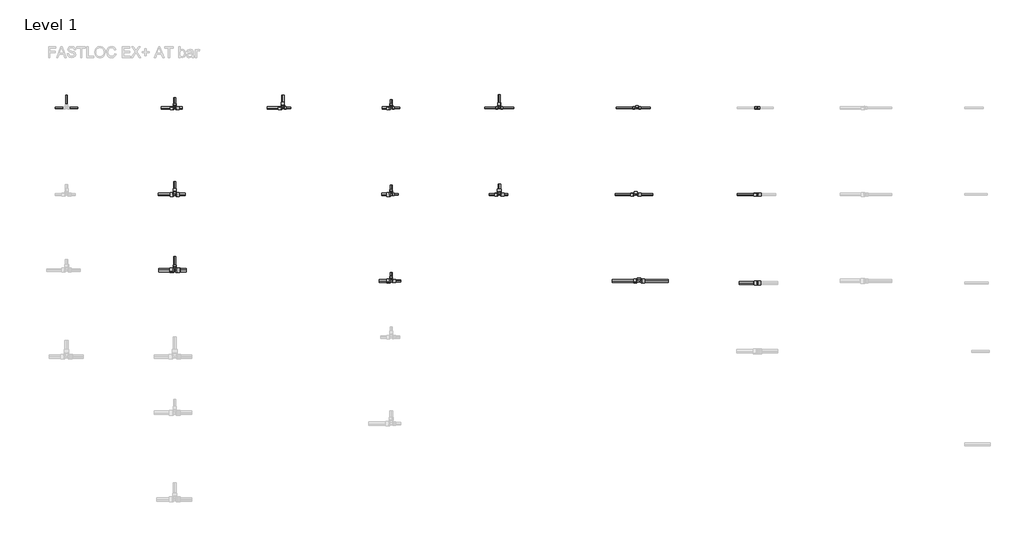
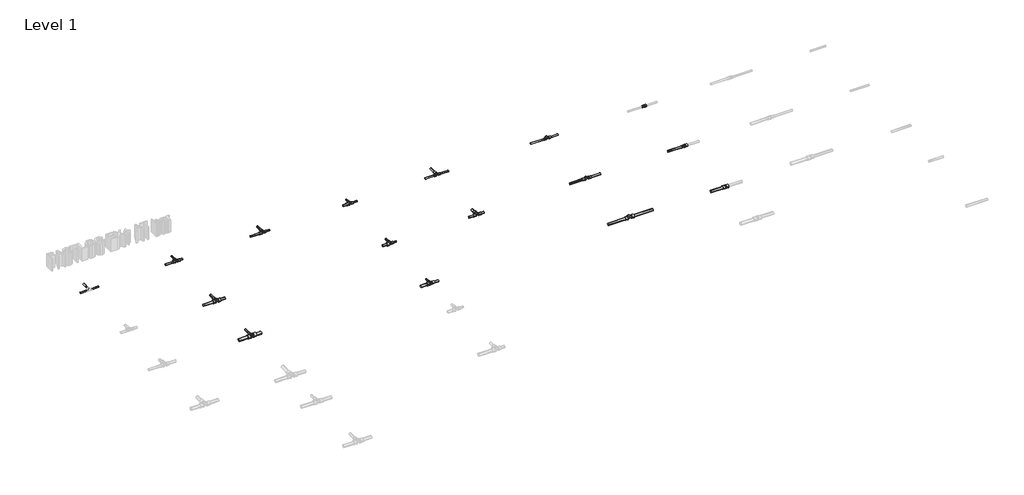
# One storey, part 2 of 16: 38 pipe segments, 15 pipe fittings.
"""IFC4 building model written with IfcOpenShell, lengths in millimetres."""

from ifc_helpers import new_model, si_unit, point, frame, frame_2d, origin, place, context, project, spatial, circle_curve, trimmed, segment, composite_curve, outline, extrude, transform, mapped, element, save
from components import pipe_fitting_027be69e, pipe_fitting_e3b44c6b, pipe_fitting_688652c5, pipe_fitting_747b917b, pipe_fitting_d1a48cca, pipe_fitting_e42a4af1, pipe_fitting_e7337aea, pipe_fitting_b316c006, pipe_fitting_93b3fcde, pipe_fitting_ef50923d, pipe_fitting_c646100e, pipe_fitting_1d22680d, pipe_fitting_5e3c5755, pipe_fitting_006a9863, pipe_fitting_3eb6683a

model = new_model("IFC4")

# Units and contexts
model_context = context("Model", 3, world=origin())
ifc_project = project(units=[si_unit("LENGTHUNIT", "METRE", prefix="MILLI")], contexts=[model_context])

# Site, building, storey
site = spatial("IfcSite", under=ifc_project)
building = spatial("IfcBuilding", under=site)
storey = spatial("IfcBuildingStorey", under=building, Name="Level 1", Elevation=0.0)

# Pipe fittings
placement = place(None, origin())
pipe_fitting_shape = pipe_fitting_027be69e(model_context)
element("IfcPipeFitting", 1, ObjectType="FASTLOC_Coupling equal EX+ : FSL C EQ EX+ AT", at=placement, inside=storey, context=model_context, shape_type="MappedRepresentation", body=[
    mapped(pipe_fitting_shape, transform((7947.6401575, -6287.6479967, 0.0), x_axis=(1.0, 0.0, 0.0), y_axis=(0.0, 1.0, 0.0), z_axis=(0.0, 0.0, 1.0))),
])
pipe_fitting_2_shape = pipe_fitting_e3b44c6b(model_context)
element("IfcPipeFitting", 2, ObjectType="FASTLOC_T-piece internal thread EX+ : FSL T thread EX+ AT", at=placement, inside=storey, context=model_context, shape_type="MappedRepresentation", body=[
    mapped(pipe_fitting_2_shape, transform((6823.972973, -7087.6479967, 0.0), x_axis=(1.0, 0.0, 0.0), y_axis=(0.0, 1.0, 0.0), z_axis=(0.0, 0.0, 1.0))),
])
pipe_fitting_3_shape = pipe_fitting_688652c5(model_context)
element("IfcPipeFitting", 3, ObjectType="FASTLOC_T-piece internal thread EX+ : FSL T thread EX+ AT", at=placement, inside=storey, context=model_context, shape_type="MappedRepresentation", body=[
    mapped(pipe_fitting_3_shape, transform((6854.9423493, -7887.6479967, 0.0), x_axis=(1.0, 0.0, 0.0), y_axis=(0.0, 1.0, 0.0), z_axis=(0.0, 0.0, 1.0))),
])
pipe_fitting_4_shape = pipe_fitting_747b917b(model_context)
element("IfcPipeFitting", 4, ObjectType="FASTLOC_T-piece_EX+ : FSL T-Piece EX+ AT", at=placement, inside=storey, context=model_context, shape_type="MappedRepresentation", body=[
    mapped(pipe_fitting_4_shape, transform((2562.9146925, -6287.6479967, 0.0), x_axis=(1.0, 0.0, 0.0), y_axis=(0.0, 1.0, 0.0), z_axis=(0.0, 0.0, 1.0))),
])
pipe_fitting_5_shape = pipe_fitting_d1a48cca(model_context)
element("IfcPipeFitting", 5, ObjectType="FASTLOC_T-piece_EX+ : FSL T-Piece EX+ AT", at=placement, inside=storey, context=model_context, shape_type="MappedRepresentation", body=[
    mapped(pipe_fitting_5_shape, transform((2562.9146925, -7087.6479967, 0.0), x_axis=(1.0, 0.0, 0.0), y_axis=(0.0, 1.0, 0.0), z_axis=(0.0, 0.0, 1.0))),
])
pipe_fitting_6_shape = pipe_fitting_e42a4af1(model_context)
element("IfcPipeFitting", 6, ObjectType="FASTLOC_T-piece_EX+ : FSL T-Piece EX+ AT", at=placement, inside=storey, context=model_context, shape_type="MappedRepresentation", body=[
    mapped(pipe_fitting_6_shape, transform((2562.9146925, -7787.6479967, 0.0), x_axis=(1.0, 0.0, 0.0), y_axis=(0.0, 1.0, 0.0), z_axis=(0.0, 0.0, 1.0))),
])
pipe_fitting_7_shape = pipe_fitting_e7337aea(model_context)
element("IfcPipeFitting", 7, ObjectType="FASTLOC_T-piece_EX+ : FSL T-Piece EX+ AT", at=placement, inside=storey, context=model_context, shape_type="MappedRepresentation", body=[
    mapped(pipe_fitting_7_shape, transform((3562.9146925, -6287.6479967, 0.0), x_axis=(1.0, 0.0, 0.0), y_axis=(0.0, 1.0, 0.0), z_axis=(0.0, 0.0, 1.0))),
])
pipe_fitting_8_shape = pipe_fitting_b316c006(model_context)
element("IfcPipeFitting", 8, ObjectType="FASTLOC_T-piece_EX+ : FSL T-Piece EX+ AT", at=placement, inside=storey, context=model_context, shape_type="MappedRepresentation", body=[
    mapped(pipe_fitting_8_shape, transform((4562.9146925, -6287.6479967, 0.0), x_axis=(1.0, 0.0, 0.0), y_axis=(0.0, 1.0, 0.0), z_axis=(0.0, 0.0, 1.0))),
])
pipe_fitting_9_shape = pipe_fitting_93b3fcde(model_context)
element("IfcPipeFitting", 9, ObjectType="FASTLOC_T-piece_EX+ : FSL T-Piece EX+ AT", at=placement, inside=storey, context=model_context, shape_type="MappedRepresentation", body=[
    mapped(pipe_fitting_9_shape, transform((4562.9146925, -7087.6479967, 0.0), x_axis=(1.0, 0.0, 0.0), y_axis=(0.0, 1.0, 0.0), z_axis=(0.0, 0.0, 1.0))),
])
pipe_fitting_10_shape = pipe_fitting_ef50923d(model_context)
element("IfcPipeFitting", 10, ObjectType="FASTLOC_T-piece_EX+ : FSL T-Piece EX+ AT", at=placement, inside=storey, context=model_context, shape_type="MappedRepresentation", body=[
    mapped(pipe_fitting_10_shape, transform((4562.9146925, -7887.6479967, 0.0), x_axis=(1.0, 0.0, 0.0), y_axis=(0.0, 1.0, 0.0), z_axis=(0.0, 0.0, 1.0))),
])
pipe_fitting_11_shape = pipe_fitting_c646100e(model_context)
element("IfcPipeFitting", 11, ObjectType="FASTLOC_T-piece_EX+ : FSL T-Piece EX+ AT", at=placement, inside=storey, context=model_context, shape_type="MappedRepresentation", body=[
    mapped(pipe_fitting_11_shape, transform((5562.9146925, -7087.6479967, 0.0), x_axis=(1.0, 0.0, 0.0), y_axis=(0.0, 1.0, 0.0), z_axis=(0.0, 0.0, 1.0))),
])
pipe_fitting_12_shape = pipe_fitting_1d22680d(model_context)
element("IfcPipeFitting", 12, ObjectType="FASTLOC_Coupling equal EX+ : FSL C EQ EX+ AT", at=placement, inside=storey, context=model_context, shape_type="MappedRepresentation", body=[
    mapped(pipe_fitting_12_shape, transform((7947.6401575, -7087.6479967, 0.0), x_axis=(1.0, 0.0, 0.0), y_axis=(0.0, 1.0, 0.0), z_axis=(0.0, 0.0, 1.0))),
])
pipe_fitting_13_shape = pipe_fitting_5e3c5755(model_context)
element("IfcPipeFitting", 13, ObjectType="FASTLOC_Coupling equal EX+ : FSL C EQ EX+ AT", at=placement, inside=storey, context=model_context, shape_type="MappedRepresentation", body=[
    mapped(pipe_fitting_13_shape, transform((7947.6401575, -7906.354246, 0.0), x_axis=(1.0, 0.0, 0.0), y_axis=(0.0, 1.0, 0.0), z_axis=(0.0, 0.0, 1.0))),
])
pipe_fitting_14_shape = pipe_fitting_006a9863(model_context)
element("IfcPipeFitting", 14, ObjectType="FASTLOC_T-piece_EX+ : FSL T-Piece EX+ AT", at=placement, inside=storey, context=model_context, shape_type="MappedRepresentation", body=[
    mapped(pipe_fitting_14_shape, transform((5562.9146925, -6287.6479967, 0.0), x_axis=(1.0, 0.0, 0.0), y_axis=(0.0, 1.0, 0.0), z_axis=(0.0, 0.0, 1.0))),
])
pipe_fitting_15_shape = pipe_fitting_3eb6683a(model_context)
element("IfcPipeFitting", 15, ObjectType="FASTLOC_T-piece internal thread EX+ : FSL T thread EX+ AT", at=placement, inside=storey, context=model_context, shape_type="MappedRepresentation", body=[
    mapped(pipe_fitting_15_shape, transform((6834.0203333, -6287.6479967, 0.0), x_axis=(1.0, 0.0, 0.0), y_axis=(0.0, 1.0, 0.0), z_axis=(0.0, 0.0, 1.0))),
])

# Pipe segments
element("IfcPipeSegment", 16, ObjectType="FASTLOC EX+ ML AT bar", at=placement, inside=storey, context=model_context, shape_type="SweptSolid", body=[
    extrude(outline(composite_curve([segment(trimmed(circle_curve(frame_2d((-7087.6479967, 0.0)), 10.0), [point((-7077.6479967, 0.0))], [point((-7087.6479967, -10.0))], False, "CARTESIAN"), True, "CONTINUOUS"), segment(trimmed(circle_curve(frame_2d((-7087.6479967, 0.0)), 10.0), [point((-7087.6479967, -10.0))], [point((-7097.6479967, 0.0))], False, "CARTESIAN"), True, "CONTINUOUS"), segment(trimmed(circle_curve(frame_2d((-7087.6479967, 0.0)), 10.0), [point((-7097.6479967, 0.0))], [point((-7087.6479967, 10.0))], False, "CARTESIAN"), True, "CONTINUOUS"), segment(trimmed(circle_curve(frame_2d((-7087.6479967, 0.0)), 10.0), [point((-7087.6479967, 10.0))], [point((-7077.6479967, 0.0))], False, "CARTESIAN"), True, "CONTINUOUS")], self_intersect=False)), frame((7760.4401575, 0.0, 0.0), z_axis=(1.0, 0.0, 0.0), x_axis=(0.0, 1.0, 0.0)), (0.0, 0.0, 1.0), 179.8),
])
element("IfcPipeSegment", 17, ObjectType="FASTLOC EX+ ML AT bar", at=placement, inside=storey, context=model_context, shape_type="SweptSolid", body=[
    extrude(outline(composite_curve([segment(trimmed(circle_curve(frame_2d((-7906.354246, 0.0)), 12.5), [point((-7893.854246, 0.0))], [point((-7906.354246, -12.5))], False, "CARTESIAN"), True, "CONTINUOUS"), segment(trimmed(circle_curve(frame_2d((-7906.354246, 0.0)), 12.5), [point((-7906.354246, -12.5))], [point((-7918.854246, 0.0))], False, "CARTESIAN"), True, "CONTINUOUS"), segment(trimmed(circle_curve(frame_2d((-7906.354246, 0.0)), 12.5), [point((-7918.854246, 0.0))], [point((-7906.354246, 12.5))], False, "CARTESIAN"), True, "CONTINUOUS"), segment(trimmed(circle_curve(frame_2d((-7906.354246, 0.0)), 12.5), [point((-7906.354246, 12.5))], [point((-7893.854246, 0.0))], False, "CARTESIAN"), True, "CONTINUOUS")], self_intersect=False)), frame((7779.6401575, 0.0, 0.0), z_axis=(1.0, 0.0, 0.0), x_axis=(0.0, 1.0, 0.0)), (0.0, 0.0, 1.0), 160.0),
])
element("IfcPipeSegment", 18, ObjectType="FASTLOC EX+ ML AT bar", at=placement, inside=storey, context=model_context, shape_type="SweptSolid", body=[
    extrude(outline(composite_curve([segment(trimmed(circle_curve(frame_2d((-7887.6479967, 0.0)), 12.5), [point((-7900.1479967, 0.0))], [point((-7887.6479967, 12.5))], False, "CARTESIAN"), True, "CONTINUOUS"), segment(trimmed(circle_curve(frame_2d((-7887.6479967, 0.0)), 12.5), [point((-7887.6479967, 12.5))], [point((-7875.1479967, 0.0))], False, "CARTESIAN"), True, "CONTINUOUS"), segment(trimmed(circle_curve(frame_2d((-7887.6479967, 0.0)), 12.5), [point((-7875.1479967, 0.0))], [point((-7887.6479967, -12.5))], False, "CARTESIAN"), True, "CONTINUOUS"), segment(trimmed(circle_curve(frame_2d((-7887.6479967, 0.0)), 12.5), [point((-7887.6479967, -12.5))], [point((-7900.1479967, 0.0))], False, "CARTESIAN"), True, "CONTINUOUS")], self_intersect=False)), frame((6881.6423493, 0.0, 0.0), z_axis=(1.0, 0.0, 0.0), x_axis=(0.0, 1.0, 0.0)), (0.0, 0.0, 1.0), 240.0),
])
element("IfcPipeSegment", 19, ObjectType="FASTLOC EX+ ML AT bar", at=placement, inside=storey, context=model_context, shape_type="SweptSolid", body=[
    extrude(outline(composite_curve([segment(trimmed(circle_curve(frame_2d((-7887.6479967, 0.0)), 12.5), [point((-7875.1479967, 0.0))], [point((-7887.6479967, -12.5))], False, "CARTESIAN"), True, "CONTINUOUS"), segment(trimmed(circle_curve(frame_2d((-7887.6479967, 0.0)), 12.5), [point((-7887.6479967, -12.5))], [point((-7900.1479967, 0.0))], False, "CARTESIAN"), True, "CONTINUOUS"), segment(trimmed(circle_curve(frame_2d((-7887.6479967, 0.0)), 12.5), [point((-7900.1479967, 0.0))], [point((-7887.6479967, 12.5))], False, "CARTESIAN"), True, "CONTINUOUS"), segment(trimmed(circle_curve(frame_2d((-7887.6479967, 0.0)), 12.5), [point((-7887.6479967, 12.5))], [point((-7875.1479967, 0.0))], False, "CARTESIAN"), True, "CONTINUOUS")], self_intersect=False)), frame((6608.2423493, 0.0, 0.0), z_axis=(1.0, 0.0, 0.0), x_axis=(0.0, 1.0, 0.0)), (0.0, 0.0, 1.0), 220.0),
])
element("IfcPipeSegment", 20, ObjectType="FASTLOC EX+ ML AT bar", at=placement, inside=storey, context=model_context, shape_type="SweptSolid", body=[
    extrude(outline(composite_curve([segment(trimmed(circle_curve(frame_2d((-7087.6479967, 0.0)), 10.0), [point((-7097.6479967, 0.0))], [point((-7087.6479967, 10.0))], False, "CARTESIAN"), True, "CONTINUOUS"), segment(trimmed(circle_curve(frame_2d((-7087.6479967, 0.0)), 10.0), [point((-7087.6479967, 10.0))], [point((-7077.6479967, 0.0))], False, "CARTESIAN"), True, "CONTINUOUS"), segment(trimmed(circle_curve(frame_2d((-7087.6479967, 0.0)), 10.0), [point((-7077.6479967, 0.0))], [point((-7087.6479967, -10.0))], False, "CARTESIAN"), True, "CONTINUOUS"), segment(trimmed(circle_curve(frame_2d((-7087.6479967, 0.0)), 10.0), [point((-7087.6479967, -10.0))], [point((-7097.6479967, 0.0))], False, "CARTESIAN"), True, "CONTINUOUS")], self_intersect=False)), frame((6846.472973, 0.0, 0.0), z_axis=(1.0, 0.0, 0.0), x_axis=(0.0, 1.0, 0.0)), (0.0, 0.0, 1.0), 135.0),
])
element("IfcPipeSegment", 21, ObjectType="FASTLOC EX+ ML AT bar", at=placement, inside=storey, context=model_context, shape_type="SweptSolid", body=[
    extrude(outline(composite_curve([segment(trimmed(circle_curve(frame_2d((-7087.6479967, 0.0)), 10.0), [point((-7077.6479967, 0.0))], [point((-7087.6479967, -10.0))], False, "CARTESIAN"), True, "CONTINUOUS"), segment(trimmed(circle_curve(frame_2d((-7087.6479967, 0.0)), 10.0), [point((-7087.6479967, -10.0))], [point((-7097.6479967, 0.0))], False, "CARTESIAN"), True, "CONTINUOUS"), segment(trimmed(circle_curve(frame_2d((-7087.6479967, 0.0)), 10.0), [point((-7097.6479967, 0.0))], [point((-7087.6479967, 10.0))], False, "CARTESIAN"), True, "CONTINUOUS"), segment(trimmed(circle_curve(frame_2d((-7087.6479967, 0.0)), 10.0), [point((-7087.6479967, 10.0))], [point((-7077.6479967, 0.0))], False, "CARTESIAN"), True, "CONTINUOUS")], self_intersect=False)), frame((6631.472973, 0.0, 0.0), z_axis=(1.0, 0.0, 0.0), x_axis=(0.0, 1.0, 0.0)), (0.0, 0.0, 1.0), 170.0),
])
element("IfcPipeSegment", 22, ObjectType="FASTLOC EX+ ML AT bar", at=placement, inside=storey, context=model_context, shape_type="SweptSolid", body=[
    extrude(outline(composite_curve([segment(trimmed(circle_curve(frame_2d((-6287.6479967, 0.0)), 8.0), [point((-6295.6479967, 0.0))], [point((-6287.6479967, 8.0))], False, "CARTESIAN"), True, "CONTINUOUS"), segment(trimmed(circle_curve(frame_2d((-6287.6479967, 0.0)), 8.0), [point((-6287.6479967, 8.0))], [point((-6279.6479967, 0.0))], False, "CARTESIAN"), True, "CONTINUOUS"), segment(trimmed(circle_curve(frame_2d((-6287.6479967, 0.0)), 8.0), [point((-6279.6479967, 0.0))], [point((-6287.6479967, -8.0))], False, "CARTESIAN"), True, "CONTINUOUS"), segment(trimmed(circle_curve(frame_2d((-6287.6479967, 0.0)), 8.0), [point((-6287.6479967, -8.0))], [point((-6295.6479967, 0.0))], False, "CARTESIAN"), True, "CONTINUOUS")], self_intersect=False)), frame((6856.0203333, 0.0, 0.0), z_axis=(1.0, 0.0, 0.0), x_axis=(0.0, 1.0, 0.0)), (0.0, 0.0, 1.0), 100.0),
])
element("IfcPipeSegment", 23, ObjectType="FASTLOC EX+ ML AT bar", at=placement, inside=storey, context=model_context, shape_type="SweptSolid", body=[
    extrude(outline(composite_curve([segment(trimmed(circle_curve(frame_2d((-6287.6479967, 0.0)), 8.0), [point((-6279.6479967, 0.0))], [point((-6287.6479967, -8.0))], False, "CARTESIAN"), True, "CONTINUOUS"), segment(trimmed(circle_curve(frame_2d((-6287.6479967, 0.0)), 8.0), [point((-6287.6479967, -8.0))], [point((-6295.6479967, 0.0))], False, "CARTESIAN"), True, "CONTINUOUS"), segment(trimmed(circle_curve(frame_2d((-6287.6479967, 0.0)), 8.0), [point((-6295.6479967, 0.0))], [point((-6287.6479967, 8.0))], False, "CARTESIAN"), True, "CONTINUOUS"), segment(trimmed(circle_curve(frame_2d((-6287.6479967, 0.0)), 8.0), [point((-6287.6479967, 8.0))], [point((-6279.6479967, 0.0))], False, "CARTESIAN"), True, "CONTINUOUS")], self_intersect=False)), frame((6642.0203333, 0.0, 0.0), z_axis=(1.0, 0.0, 0.0), x_axis=(0.0, 1.0, 0.0)), (0.0, 0.0, 1.0), 170.0),
])
element("IfcPipeSegment", 24, ObjectType="FASTLOC EX+ ML AT bar", at=placement, inside=storey, context=model_context, shape_type="SweptSolid", body=[
    extrude(outline(composite_curve([segment(trimmed(circle_curve(frame_2d((-6287.6479967, 0.0)), 8.0), [point((-6295.6479967, 0.0))], [point((-6287.6479967, 8.0))], False, "CARTESIAN"), True, "CONTINUOUS"), segment(trimmed(circle_curve(frame_2d((-6287.6479967, 0.0)), 8.0), [point((-6287.6479967, 8.0))], [point((-6279.6479967, 0.0))], False, "CARTESIAN"), True, "CONTINUOUS"), segment(trimmed(circle_curve(frame_2d((-6287.6479967, 0.0)), 8.0), [point((-6279.6479967, 0.0))], [point((-6287.6479967, -8.0))], False, "CARTESIAN"), True, "CONTINUOUS"), segment(trimmed(circle_curve(frame_2d((-6287.6479967, 0.0)), 8.0), [point((-6287.6479967, -8.0))], [point((-6295.6479967, 0.0))], False, "CARTESIAN"), True, "CONTINUOUS")], self_intersect=False)), frame((5579.8146925, 0.0, 0.0), z_axis=(1.0, 0.0, 0.0), x_axis=(0.0, 1.0, 0.0)), (0.0, 0.0, 1.0), 115.34),
])
element("IfcPipeSegment", 25, ObjectType="FASTLOC EX+ ML AT bar", at=placement, inside=storey, context=model_context, shape_type="SweptSolid", body=[
    extrude(outline(composite_curve([segment(trimmed(circle_curve(frame_2d((-6287.6479967, 0.0)), 8.0), [point((-6279.6479967, 0.0))], [point((-6287.6479967, -8.0))], False, "CARTESIAN"), True, "CONTINUOUS"), segment(trimmed(circle_curve(frame_2d((-6287.6479967, 0.0)), 8.0), [point((-6287.6479967, -8.0))], [point((-6295.6479967, 0.0))], False, "CARTESIAN"), True, "CONTINUOUS"), segment(trimmed(circle_curve(frame_2d((-6287.6479967, 0.0)), 8.0), [point((-6295.6479967, 0.0))], [point((-6287.6479967, 8.0))], False, "CARTESIAN"), True, "CONTINUOUS"), segment(trimmed(circle_curve(frame_2d((-6287.6479967, 0.0)), 8.0), [point((-6287.6479967, 8.0))], [point((-6279.6479967, 0.0))], False, "CARTESIAN"), True, "CONTINUOUS")], self_intersect=False)), frame((5426.0146925, 0.0, 0.0), z_axis=(1.0, 0.0, 0.0), x_axis=(0.0, 1.0, 0.0)), (0.0, 0.0, 1.0), 120.0),
])
element("IfcPipeSegment", 26, ObjectType="FASTLOC EX+ ML AT bar", at=placement, inside=storey, context=model_context, shape_type="SweptSolid", body=[
    extrude(outline(composite_curve([segment(trimmed(circle_curve(frame_2d((0.0, 5562.9146925)), 10.0), [point((0.0, 5572.9146925))], [point((10.0, 5562.9146925))], False, "CARTESIAN"), True, "CONTINUOUS"), segment(trimmed(circle_curve(frame_2d((0.0, 5562.9146925)), 10.0), [point((10.0, 5562.9146925))], [point((0.0, 5552.9146925))], False, "CARTESIAN"), True, "CONTINUOUS"), segment(trimmed(circle_curve(frame_2d((0.0, 5562.9146925)), 10.0), [point((0.0, 5552.9146925))], [point((-10.0, 5562.9146925))], False, "CARTESIAN"), True, "CONTINUOUS"), segment(trimmed(circle_curve(frame_2d((0.0, 5562.9146925)), 10.0), [point((-10.0, 5562.9146925))], [point((0.0, 5572.9146925))], False, "CARTESIAN"), True, "CONTINUOUS")], self_intersect=False)), frame((0.0, -6265.3479967, 0.0), z_axis=(0.0, 1.0, 0.0), x_axis=(0.0, 0.0, 1.0)), (0.0, 0.0, 1.0), 100.0),
])
element("IfcPipeSegment", 27, ObjectType="FASTLOC EX+ ML AT bar", at=placement, inside=storey, context=model_context, shape_type="SweptSolid", body=[
    extrude(outline(composite_curve([segment(trimmed(circle_curve(frame_2d((-7087.6479967, 0.0)), 10.0), [point((-7077.6479967, 0.0))], [point((-7087.6479967, -10.0))], False, "CARTESIAN"), True, "CONTINUOUS"), segment(trimmed(circle_curve(frame_2d((-7087.6479967, 0.0)), 10.0), [point((-7087.6479967, -10.0))], [point((-7097.6479967, 0.0))], False, "CARTESIAN"), True, "CONTINUOUS"), segment(trimmed(circle_curve(frame_2d((-7087.6479967, 0.0)), 10.0), [point((-7097.6479967, 0.0))], [point((-7087.6479967, 10.0))], False, "CARTESIAN"), True, "CONTINUOUS"), segment(trimmed(circle_curve(frame_2d((-7087.6479967, 0.0)), 10.0), [point((-7087.6479967, 10.0))], [point((-7077.6479967, 0.0))], False, "CARTESIAN"), True, "CONTINUOUS")], self_intersect=False)), frame((5468.9146925, 0.0, 0.0), z_axis=(1.0, 0.0, 0.0), x_axis=(0.0, 1.0, 0.0)), (0.0, 0.0, 1.0), 75.0),
])
element("IfcPipeSegment", 28, ObjectType="FASTLOC EX+ ML AT bar", at=placement, inside=storey, context=model_context, shape_type="SweptSolid", body=[
    extrude(outline(composite_curve([segment(trimmed(circle_curve(frame_2d((-7087.6479967, 0.0)), 10.0), [point((-7097.6479967, 0.0))], [point((-7087.6479967, 10.0))], False, "CARTESIAN"), True, "CONTINUOUS"), segment(trimmed(circle_curve(frame_2d((-7087.6479967, 0.0)), 10.0), [point((-7087.6479967, 10.0))], [point((-7077.6479967, 0.0))], False, "CARTESIAN"), True, "CONTINUOUS"), segment(trimmed(circle_curve(frame_2d((-7087.6479967, 0.0)), 10.0), [point((-7077.6479967, 0.0))], [point((-7087.6479967, -10.0))], False, "CARTESIAN"), True, "CONTINUOUS"), segment(trimmed(circle_curve(frame_2d((-7087.6479967, 0.0)), 10.0), [point((-7087.6479967, -10.0))], [point((-7097.6479967, 0.0))], False, "CARTESIAN"), True, "CONTINUOUS")], self_intersect=False)), frame((5581.9146925, 0.0, 0.0), z_axis=(1.0, 0.0, 0.0), x_axis=(0.0, 1.0, 0.0)), (0.0, 0.0, 1.0), 60.0),
])
element("IfcPipeSegment", 29, ObjectType="FASTLOC EX+ ML AT bar", at=placement, inside=storey, context=model_context, shape_type="SweptSolid", body=[
    extrude(outline(composite_curve([segment(trimmed(circle_curve(frame_2d((0.0, 5562.9146925)), 12.5), [point((0.0, 5575.4146925))], [point((12.5, 5562.9146925))], False, "CARTESIAN"), True, "CONTINUOUS"), segment(trimmed(circle_curve(frame_2d((0.0, 5562.9146925)), 12.5), [point((12.5, 5562.9146925))], [point((0.0, 5550.4146925))], False, "CARTESIAN"), True, "CONTINUOUS"), segment(trimmed(circle_curve(frame_2d((0.0, 5562.9146925)), 12.5), [point((0.0, 5550.4146925))], [point((-12.5, 5562.9146925))], False, "CARTESIAN"), True, "CONTINUOUS"), segment(trimmed(circle_curve(frame_2d((0.0, 5562.9146925)), 12.5), [point((-12.5, 5562.9146925))], [point((0.0, 5575.4146925))], False, "CARTESIAN"), True, "CONTINUOUS")], self_intersect=False)), frame((0.0, -7060.8479967, 0.0), z_axis=(0.0, 1.0, 0.0), x_axis=(0.0, 0.0, 1.0)), (0.0, 0.0, 1.0), 70.0),
])
element("IfcPipeSegment", 30, ObjectType="FASTLOC EX+ ML AT bar", at=placement, inside=storey, context=model_context, shape_type="SweptSolid", body=[
    extrude(outline(composite_curve([segment(trimmed(circle_curve(frame_2d((-6287.6479967, 0.0)), 10.0), [point((-6277.6479967, 0.0))], [point((-6287.6479967, -10.0))], False, "CARTESIAN"), True, "CONTINUOUS"), segment(trimmed(circle_curve(frame_2d((-6287.6479967, 0.0)), 10.0), [point((-6287.6479967, -10.0))], [point((-6297.6479967, 0.0))], False, "CARTESIAN"), True, "CONTINUOUS"), segment(trimmed(circle_curve(frame_2d((-6287.6479967, 0.0)), 10.0), [point((-6297.6479967, 0.0))], [point((-6287.6479967, 10.0))], False, "CARTESIAN"), True, "CONTINUOUS"), segment(trimmed(circle_curve(frame_2d((-6287.6479967, 0.0)), 10.0), [point((-6287.6479967, 10.0))], [point((-6277.6479967, 0.0))], False, "CARTESIAN"), True, "CONTINUOUS")], self_intersect=False)), frame((4482.4146925, 0.0, 0.0), z_axis=(1.0, 0.0, 0.0), x_axis=(0.0, 1.0, 0.0)), (0.0, 0.0, 1.0), 65.0),
])
element("IfcPipeSegment", 31, ObjectType="FASTLOC EX+ ML AT bar", at=placement, inside=storey, context=model_context, shape_type="SweptSolid", body=[
    extrude(outline(composite_curve([segment(trimmed(circle_curve(frame_2d((0.0, 4562.9146925)), 8.0), [point((0.0, 4570.9146925))], [point((8.0, 4562.9146925))], False, "CARTESIAN"), True, "CONTINUOUS"), segment(trimmed(circle_curve(frame_2d((0.0, 4562.9146925)), 8.0), [point((8.0, 4562.9146925))], [point((0.0, 4554.9146925))], False, "CARTESIAN"), True, "CONTINUOUS"), segment(trimmed(circle_curve(frame_2d((0.0, 4562.9146925)), 8.0), [point((0.0, 4554.9146925))], [point((-8.0, 4562.9146925))], False, "CARTESIAN"), True, "CONTINUOUS"), segment(trimmed(circle_curve(frame_2d((0.0, 4562.9146925)), 8.0), [point((-8.0, 4562.9146925))], [point((0.0, 4570.9146925))], False, "CARTESIAN"), True, "CONTINUOUS")], self_intersect=False)), frame((0.0, -6261.2479967, 0.0), z_axis=(0.0, 1.0, 0.0), x_axis=(0.0, 0.0, 1.0)), (0.0, 0.0, 1.0), 50.0),
])
element("IfcPipeSegment", 32, ObjectType="FASTLOC EX+ ML AT bar", at=placement, inside=storey, context=model_context, shape_type="SweptSolid", body=[
    extrude(outline(composite_curve([segment(trimmed(circle_curve(frame_2d((-6287.6479967, 0.0)), 8.0), [point((-6295.6479967, 0.0))], [point((-6287.6479967, 8.0))], False, "CARTESIAN"), True, "CONTINUOUS"), segment(trimmed(circle_curve(frame_2d((-6287.6479967, 0.0)), 8.0), [point((-6287.6479967, 8.0))], [point((-6279.6479967, 0.0))], False, "CARTESIAN"), True, "CONTINUOUS"), segment(trimmed(circle_curve(frame_2d((-6287.6479967, 0.0)), 8.0), [point((-6279.6479967, 0.0))], [point((-6287.6479967, -8.0))], False, "CARTESIAN"), True, "CONTINUOUS"), segment(trimmed(circle_curve(frame_2d((-6287.6479967, 0.0)), 8.0), [point((-6287.6479967, -8.0))], [point((-6295.6479967, 0.0))], False, "CARTESIAN"), True, "CONTINUOUS")], self_intersect=False)), frame((4578.0146925, 0.0, 0.0), z_axis=(1.0, 0.0, 0.0), x_axis=(0.0, 1.0, 0.0)), (0.0, 0.0, 1.0), 65.0),
])
element("IfcPipeSegment", 33, ObjectType="FASTLOC EX+ ML AT bar", at=placement, inside=storey, context=model_context, shape_type="SweptSolid", body=[
    extrude(outline(composite_curve([segment(trimmed(circle_curve(frame_2d((-7087.6479967, 0.0)), 8.0), [point((-7095.6479967, 0.0))], [point((-7087.6479967, 8.0))], False, "CARTESIAN"), True, "CONTINUOUS"), segment(trimmed(circle_curve(frame_2d((-7087.6479967, 0.0)), 8.0), [point((-7087.6479967, 8.0))], [point((-7079.6479967, 0.0))], False, "CARTESIAN"), True, "CONTINUOUS"), segment(trimmed(circle_curve(frame_2d((-7087.6479967, 0.0)), 8.0), [point((-7079.6479967, 0.0))], [point((-7087.6479967, -8.0))], False, "CARTESIAN"), True, "CONTINUOUS"), segment(trimmed(circle_curve(frame_2d((-7087.6479967, 0.0)), 8.0), [point((-7087.6479967, -8.0))], [point((-7095.6479967, 0.0))], False, "CARTESIAN"), True, "CONTINUOUS")], self_intersect=False)), frame((4578.0146925, 0.0, 0.0), z_axis=(1.0, 0.0, 0.0), x_axis=(0.0, 1.0, 0.0)), (0.0, 0.0, 1.0), 51.7891439),
])
element("IfcPipeSegment", 34, ObjectType="FASTLOC EX+ ML AT bar", at=placement, inside=storey, context=model_context, shape_type="SweptSolid", body=[
    extrude(outline(composite_curve([segment(trimmed(circle_curve(frame_2d((-7087.6479967, 0.0)), 12.5), [point((-7075.1479967, 0.0))], [point((-7087.6479967, -12.5))], False, "CARTESIAN"), True, "CONTINUOUS"), segment(trimmed(circle_curve(frame_2d((-7087.6479967, 0.0)), 12.5), [point((-7087.6479967, -12.5))], [point((-7100.1479967, 0.0))], False, "CARTESIAN"), True, "CONTINUOUS"), segment(trimmed(circle_curve(frame_2d((-7087.6479967, 0.0)), 12.5), [point((-7100.1479967, 0.0))], [point((-7087.6479967, 12.5))], False, "CARTESIAN"), True, "CONTINUOUS"), segment(trimmed(circle_curve(frame_2d((-7087.6479967, 0.0)), 12.5), [point((-7087.6479967, 12.5))], [point((-7075.1479967, 0.0))], False, "CARTESIAN"), True, "CONTINUOUS")], self_intersect=False)), frame((4476.5146925, 0.0, 0.0), z_axis=(1.0, 0.0, 0.0), x_axis=(0.0, 1.0, 0.0)), (0.0, 0.0, 1.0), 70.0),
])
element("IfcPipeSegment", 35, ObjectType="FASTLOC EX+ ML AT bar", at=placement, inside=storey, context=model_context, shape_type="SweptSolid", body=[
    extrude(outline(composite_curve([segment(trimmed(circle_curve(frame_2d((0.0, 4562.9146925)), 8.0), [point((0.0, 4570.9146925))], [point((8.0, 4562.9146925))], False, "CARTESIAN"), True, "CONTINUOUS"), segment(trimmed(circle_curve(frame_2d((0.0, 4562.9146925)), 8.0), [point((8.0, 4562.9146925))], [point((0.0, 4554.9146925))], False, "CARTESIAN"), True, "CONTINUOUS"), segment(trimmed(circle_curve(frame_2d((0.0, 4562.9146925)), 8.0), [point((0.0, 4554.9146925))], [point((-8.0, 4562.9146925))], False, "CARTESIAN"), True, "CONTINUOUS"), segment(trimmed(circle_curve(frame_2d((0.0, 4562.9146925)), 8.0), [point((-8.0, 4562.9146925))], [point((0.0, 4570.9146925))], False, "CARTESIAN"), True, "CONTINUOUS")], self_intersect=False)), frame((0.0, -7058.5479967, 0.0), z_axis=(0.0, 1.0, 0.0), x_axis=(0.0, 0.0, 1.0)), (0.0, 0.0, 1.0), 57.2788778),
])
element("IfcPipeSegment", 36, ObjectType="FASTLOC EX+ ML AT bar", at=placement, inside=storey, context=model_context, shape_type="SweptSolid", body=[
    extrude(outline(composite_curve([segment(trimmed(circle_curve(frame_2d((-7887.6479967, 0.0)), 10.0), [point((-7897.6479967, 0.0))], [point((-7887.6479967, 10.0))], False, "CARTESIAN"), True, "CONTINUOUS"), segment(trimmed(circle_curve(frame_2d((-7887.6479967, 0.0)), 10.0), [point((-7887.6479967, 10.0))], [point((-7877.6479967, 0.0))], False, "CARTESIAN"), True, "CONTINUOUS"), segment(trimmed(circle_curve(frame_2d((-7887.6479967, 0.0)), 10.0), [point((-7877.6479967, 0.0))], [point((-7887.6479967, -10.0))], False, "CARTESIAN"), True, "CONTINUOUS"), segment(trimmed(circle_curve(frame_2d((-7887.6479967, 0.0)), 10.0), [point((-7887.6479967, -10.0))], [point((-7897.6479967, 0.0))], False, "CARTESIAN"), True, "CONTINUOUS")], self_intersect=False)), frame((4578.4146925, 0.0, 0.0), z_axis=(1.0, 0.0, 0.0), x_axis=(0.0, 1.0, 0.0)), (0.0, 0.0, 1.0), 75.0),
])
element("IfcPipeSegment", 37, ObjectType="FASTLOC EX+ ML AT bar", at=placement, inside=storey, context=model_context, shape_type="SweptSolid", body=[
    extrude(outline(composite_curve([segment(trimmed(circle_curve(frame_2d((0.0, 4562.9146925)), 8.0), [point((0.0, 4570.9146925))], [point((8.0, 4562.9146925))], False, "CARTESIAN"), True, "CONTINUOUS"), segment(trimmed(circle_curve(frame_2d((0.0, 4562.9146925)), 8.0), [point((8.0, 4562.9146925))], [point((0.0, 4554.9146925))], False, "CARTESIAN"), True, "CONTINUOUS"), segment(trimmed(circle_curve(frame_2d((0.0, 4562.9146925)), 8.0), [point((0.0, 4554.9146925))], [point((-8.0, 4562.9146925))], False, "CARTESIAN"), True, "CONTINUOUS"), segment(trimmed(circle_curve(frame_2d((0.0, 4562.9146925)), 8.0), [point((-8.0, 4562.9146925))], [point((0.0, 4570.9146925))], False, "CARTESIAN"), True, "CONTINUOUS")], self_intersect=False)), frame((0.0, -7858.5479967, 0.0), z_axis=(0.0, 1.0, 0.0), x_axis=(0.0, 0.0, 1.0)), (0.0, 0.0, 1.0), 50.0),
])
element("IfcPipeSegment", 38, ObjectType="FASTLOC EX+ ML AT bar", at=placement, inside=storey, context=model_context, shape_type="SweptSolid", body=[
    extrude(outline(composite_curve([segment(trimmed(circle_curve(frame_2d((-7887.6479967, 0.0)), 12.5), [point((-7875.1479967, 0.0))], [point((-7887.6479967, -12.5))], False, "CARTESIAN"), True, "CONTINUOUS"), segment(trimmed(circle_curve(frame_2d((-7887.6479967, 0.0)), 12.5), [point((-7887.6479967, -12.5))], [point((-7900.1479967, 0.0))], False, "CARTESIAN"), True, "CONTINUOUS"), segment(trimmed(circle_curve(frame_2d((-7887.6479967, 0.0)), 12.5), [point((-7900.1479967, 0.0))], [point((-7887.6479967, 12.5))], False, "CARTESIAN"), True, "CONTINUOUS"), segment(trimmed(circle_curve(frame_2d((-7887.6479967, 0.0)), 12.5), [point((-7887.6479967, 12.5))], [point((-7875.1479967, 0.0))], False, "CARTESIAN"), True, "CONTINUOUS")], self_intersect=False)), frame((4451.5146925, 0.0, 0.0), z_axis=(1.0, 0.0, 0.0), x_axis=(0.0, 1.0, 0.0)), (0.0, 0.0, 1.0), 95.0),
])
element("IfcPipeSegment", 39, ObjectType="FASTLOC EX+ ML AT bar", at=placement, inside=storey, context=model_context, shape_type="SweptSolid", body=[
    extrude(outline(composite_curve([segment(trimmed(circle_curve(frame_2d((-6287.6479967, 0.0)), 8.0), [point((-6295.6479967, 0.0))], [point((-6287.6479967, 8.0))], False, "CARTESIAN"), True, "CONTINUOUS"), segment(trimmed(circle_curve(frame_2d((-6287.6479967, 0.0)), 8.0), [point((-6287.6479967, 8.0))], [point((-6279.6479967, 0.0))], False, "CARTESIAN"), True, "CONTINUOUS"), segment(trimmed(circle_curve(frame_2d((-6287.6479967, 0.0)), 8.0), [point((-6279.6479967, 0.0))], [point((-6287.6479967, -8.0))], False, "CARTESIAN"), True, "CONTINUOUS"), segment(trimmed(circle_curve(frame_2d((-6287.6479967, 0.0)), 8.0), [point((-6287.6479967, -8.0))], [point((-6295.6479967, 0.0))], False, "CARTESIAN"), True, "CONTINUOUS")], self_intersect=False)), frame((3579.9146925, 0.0, 0.0), z_axis=(1.0, 0.0, 0.0), x_axis=(0.0, 1.0, 0.0)), (0.0, 0.0, 1.0), 55.0),
])
element("IfcPipeSegment", 40, ObjectType="FASTLOC EX+ ML AT bar", at=placement, inside=storey, context=model_context, shape_type="SweptSolid", body=[
    extrude(outline(composite_curve([segment(trimmed(circle_curve(frame_2d((0.0, 3562.9146925)), 10.0), [point((0.0, 3572.9146925))], [point((10.0, 3562.9146925))], False, "CARTESIAN"), True, "CONTINUOUS"), segment(trimmed(circle_curve(frame_2d((0.0, 3562.9146925)), 10.0), [point((10.0, 3562.9146925))], [point((0.0, 3552.9146925))], False, "CARTESIAN"), True, "CONTINUOUS"), segment(trimmed(circle_curve(frame_2d((0.0, 3562.9146925)), 10.0), [point((0.0, 3552.9146925))], [point((-10.0, 3562.9146925))], False, "CARTESIAN"), True, "CONTINUOUS"), segment(trimmed(circle_curve(frame_2d((0.0, 3562.9146925)), 10.0), [point((-10.0, 3562.9146925))], [point((0.0, 3572.9146925))], False, "CARTESIAN"), True, "CONTINUOUS")], self_intersect=False)), frame((0.0, -6261.2479967, 0.0), z_axis=(0.0, 1.0, 0.0), x_axis=(0.0, 0.0, 1.0)), (0.0, 0.0, 1.0), 90.0),
])
element("IfcPipeSegment", 41, ObjectType="FASTLOC EX+ ML AT bar", at=placement, inside=storey, context=model_context, shape_type="SweptSolid", body=[
    extrude(outline(composite_curve([segment(trimmed(circle_curve(frame_2d((-6287.6479967, 0.0)), 10.0), [point((-6277.6479967, 0.0))], [point((-6287.6479967, -10.0))], False, "CARTESIAN"), True, "CONTINUOUS"), segment(trimmed(circle_curve(frame_2d((-6287.6479967, 0.0)), 10.0), [point((-6287.6479967, -10.0))], [point((-6297.6479967, 0.0))], False, "CARTESIAN"), True, "CONTINUOUS"), segment(trimmed(circle_curve(frame_2d((-6287.6479967, 0.0)), 10.0), [point((-6297.6479967, 0.0))], [point((-6287.6479967, 10.0))], False, "CARTESIAN"), True, "CONTINUOUS"), segment(trimmed(circle_curve(frame_2d((-6287.6479967, 0.0)), 10.0), [point((-6287.6479967, 10.0))], [point((-6277.6479967, 0.0))], False, "CARTESIAN"), True, "CONTINUOUS")], self_intersect=False)), frame((3415.5146925, 0.0, 0.0), z_axis=(1.0, 0.0, 0.0), x_axis=(0.0, 1.0, 0.0)), (0.0, 0.0, 1.0), 130.0),
])
element("IfcPipeSegment", 42, ObjectType="FASTLOC EX+ ML AT bar", at=placement, inside=storey, context=model_context, shape_type="SweptSolid", body=[
    extrude(outline(composite_curve([segment(trimmed(circle_curve(frame_2d((-6287.6479967, 0.0)), 10.0), [point((-6297.6479967, 0.0))], [point((-6287.6479967, 10.0))], False, "CARTESIAN"), True, "CONTINUOUS"), segment(trimmed(circle_curve(frame_2d((-6287.6479967, 0.0)), 10.0), [point((-6287.6479967, 10.0))], [point((-6277.6479967, 0.0))], False, "CARTESIAN"), True, "CONTINUOUS"), segment(trimmed(circle_curve(frame_2d((-6287.6479967, 0.0)), 10.0), [point((-6277.6479967, 0.0))], [point((-6287.6479967, -10.0))], False, "CARTESIAN"), True, "CONTINUOUS"), segment(trimmed(circle_curve(frame_2d((-6287.6479967, 0.0)), 10.0), [point((-6287.6479967, -10.0))], [point((-6297.6479967, 0.0))], False, "CARTESIAN"), True, "CONTINUOUS")], self_intersect=False)), frame((2578.2146925, 0.0, 0.0), z_axis=(1.0, 0.0, 0.0), x_axis=(0.0, 1.0, 0.0)), (0.0, 0.0, 1.0), 55.0),
])
element("IfcPipeSegment", 43, ObjectType="FASTLOC EX+ ML AT bar", at=placement, inside=storey, context=model_context, shape_type="SweptSolid", body=[
    extrude(outline(composite_curve([segment(trimmed(circle_curve(frame_2d((0.0, 2562.9146925)), 8.0), [point((0.0, 2570.9146925))], [point((8.0, 2562.9146925))], False, "CARTESIAN"), True, "CONTINUOUS"), segment(trimmed(circle_curve(frame_2d((0.0, 2562.9146925)), 8.0), [point((8.0, 2562.9146925))], [point((0.0, 2554.9146925))], False, "CARTESIAN"), True, "CONTINUOUS"), segment(trimmed(circle_curve(frame_2d((0.0, 2562.9146925)), 8.0), [point((0.0, 2554.9146925))], [point((-8.0, 2562.9146925))], False, "CARTESIAN"), True, "CONTINUOUS"), segment(trimmed(circle_curve(frame_2d((0.0, 2562.9146925)), 8.0), [point((-8.0, 2562.9146925))], [point((0.0, 2570.9146925))], False, "CARTESIAN"), True, "CONTINUOUS")], self_intersect=False)), frame((0.0, -6261.3479967, 0.0), z_axis=(0.0, 1.0, 0.0), x_axis=(0.0, 0.0, 1.0)), (0.0, 0.0, 1.0), 70.0),
])
element("IfcPipeSegment", 44, ObjectType="FASTLOC EX+ ML AT bar", at=placement, inside=storey, context=model_context, shape_type="SweptSolid", body=[
    extrude(outline(composite_curve([segment(trimmed(circle_curve(frame_2d((-6287.6479967, 0.0)), 10.0), [point((-6277.6479967, 0.0))], [point((-6287.6479967, -10.0))], False, "CARTESIAN"), True, "CONTINUOUS"), segment(trimmed(circle_curve(frame_2d((-6287.6479967, 0.0)), 10.0), [point((-6287.6479967, -10.0))], [point((-6297.6479967, 0.0))], False, "CARTESIAN"), True, "CONTINUOUS"), segment(trimmed(circle_curve(frame_2d((-6287.6479967, 0.0)), 10.0), [point((-6297.6479967, 0.0))], [point((-6287.6479967, 10.0))], False, "CARTESIAN"), True, "CONTINUOUS"), segment(trimmed(circle_curve(frame_2d((-6287.6479967, 0.0)), 10.0), [point((-6287.6479967, 10.0))], [point((-6277.6479967, 0.0))], False, "CARTESIAN"), True, "CONTINUOUS")], self_intersect=False)), frame((2437.6146925, 0.0, 0.0), z_axis=(1.0, 0.0, 0.0), x_axis=(0.0, 1.0, 0.0)), (0.0, 0.0, 1.0), 110.0),
])
element("IfcPipeSegment", 45, ObjectType="FASTLOC EX+ ML AT bar", at=placement, inside=storey, context=model_context, shape_type="SweptSolid", body=[
    extrude(outline(composite_curve([segment(trimmed(circle_curve(frame_2d((-7087.6479967, 0.0)), 12.5), [point((-7100.1479967, 0.0))], [point((-7087.6479967, 12.5))], False, "CARTESIAN"), True, "CONTINUOUS"), segment(trimmed(circle_curve(frame_2d((-7087.6479967, 0.0)), 12.5), [point((-7087.6479967, 12.5))], [point((-7075.1479967, 0.0))], False, "CARTESIAN"), True, "CONTINUOUS"), segment(trimmed(circle_curve(frame_2d((-7087.6479967, 0.0)), 12.5), [point((-7075.1479967, 0.0))], [point((-7087.6479967, -12.5))], False, "CARTESIAN"), True, "CONTINUOUS"), segment(trimmed(circle_curve(frame_2d((-7087.6479967, 0.0)), 12.5), [point((-7087.6479967, -12.5))], [point((-7100.1479967, 0.0))], False, "CARTESIAN"), True, "CONTINUOUS")], self_intersect=False)), frame((2581.0146925, 0.0, 0.0), z_axis=(1.0, 0.0, 0.0), x_axis=(0.0, 1.0, 0.0)), (0.0, 0.0, 1.0), 80.0),
])
element("IfcPipeSegment", 46, ObjectType="FASTLOC EX+ ML AT bar", at=placement, inside=storey, context=model_context, shape_type="SweptSolid", body=[
    extrude(outline(composite_curve([segment(trimmed(circle_curve(frame_2d((0.0, 2562.9146925)), 10.0), [point((0.0, 2572.9146925))], [point((10.0, 2562.9146925))], False, "CARTESIAN"), True, "CONTINUOUS"), segment(trimmed(circle_curve(frame_2d((0.0, 2562.9146925)), 10.0), [point((10.0, 2562.9146925))], [point((0.0, 2552.9146925))], False, "CARTESIAN"), True, "CONTINUOUS"), segment(trimmed(circle_curve(frame_2d((0.0, 2562.9146925)), 10.0), [point((0.0, 2552.9146925))], [point((-10.0, 2562.9146925))], False, "CARTESIAN"), True, "CONTINUOUS"), segment(trimmed(circle_curve(frame_2d((0.0, 2562.9146925)), 10.0), [point((-10.0, 2562.9146925))], [point((0.0, 2572.9146925))], False, "CARTESIAN"), True, "CONTINUOUS")], self_intersect=False)), frame((0.0, -7058.4479967, 0.0), z_axis=(0.0, 1.0, 0.0), x_axis=(0.0, 0.0, 1.0)), (0.0, 0.0, 1.0), 90.0),
])
element("IfcPipeSegment", 47, ObjectType="FASTLOC EX+ ML AT bar", at=placement, inside=storey, context=model_context, shape_type="SweptSolid", body=[
    extrude(outline(composite_curve([segment(trimmed(circle_curve(frame_2d((-7087.6479967, 0.0)), 12.5), [point((-7075.1479967, 0.0))], [point((-7087.6479967, -12.5))], False, "CARTESIAN"), True, "CONTINUOUS"), segment(trimmed(circle_curve(frame_2d((-7087.6479967, 0.0)), 12.5), [point((-7087.6479967, -12.5))], [point((-7100.1479967, 0.0))], False, "CARTESIAN"), True, "CONTINUOUS"), segment(trimmed(circle_curve(frame_2d((-7087.6479967, 0.0)), 12.5), [point((-7100.1479967, 0.0))], [point((-7087.6479967, 12.5))], False, "CARTESIAN"), True, "CONTINUOUS"), segment(trimmed(circle_curve(frame_2d((-7087.6479967, 0.0)), 12.5), [point((-7087.6479967, 12.5))], [point((-7075.1479967, 0.0))], False, "CARTESIAN"), True, "CONTINUOUS")], self_intersect=False)), frame((2409.8146925, 0.0, 0.0), z_axis=(1.0, 0.0, 0.0), x_axis=(0.0, 1.0, 0.0)), (0.0, 0.0, 1.0), 135.0),
])
element("IfcPipeSegment", 48, ObjectType="FASTLOC EX+ ML AT bar", at=placement, inside=storey, context=model_context, shape_type="SweptSolid", body=[
    extrude(outline(composite_curve([segment(trimmed(circle_curve(frame_2d((-7787.6479967, 0.0)), 16.0), [point((-7803.6479967, 0.0))], [point((-7787.6479967, 16.0))], False, "CARTESIAN"), True, "CONTINUOUS"), segment(trimmed(circle_curve(frame_2d((-7787.6479967, 0.0)), 16.0), [point((-7787.6479967, 16.0))], [point((-7771.6479967, 0.0))], False, "CARTESIAN"), True, "CONTINUOUS"), segment(trimmed(circle_curve(frame_2d((-7787.6479967, 0.0)), 16.0), [point((-7771.6479967, 0.0))], [point((-7787.6479967, -16.0))], False, "CARTESIAN"), True, "CONTINUOUS"), segment(trimmed(circle_curve(frame_2d((-7787.6479967, 0.0)), 16.0), [point((-7787.6479967, -16.0))], [point((-7803.6479967, 0.0))], False, "CARTESIAN"), True, "CONTINUOUS")], self_intersect=False)), frame((2581.2146925, 0.0, 0.0), z_axis=(1.0, 0.0, 0.0), x_axis=(0.0, 1.0, 0.0)), (0.0, 0.0, 1.0), 90.0),
])
element("IfcPipeSegment", 49, ObjectType="FASTLOC EX+ ML AT bar", at=placement, inside=storey, context=model_context, shape_type="SweptSolid", body=[
    extrude(outline(composite_curve([segment(trimmed(circle_curve(frame_2d((0.0, 2562.9146925)), 8.0), [point((0.0, 2570.9146925))], [point((8.0, 2562.9146925))], False, "CARTESIAN"), True, "CONTINUOUS"), segment(trimmed(circle_curve(frame_2d((0.0, 2562.9146925)), 8.0), [point((8.0, 2562.9146925))], [point((0.0, 2554.9146925))], False, "CARTESIAN"), True, "CONTINUOUS"), segment(trimmed(circle_curve(frame_2d((0.0, 2562.9146925)), 8.0), [point((0.0, 2554.9146925))], [point((-8.0, 2562.9146925))], False, "CARTESIAN"), True, "CONTINUOUS"), segment(trimmed(circle_curve(frame_2d((0.0, 2562.9146925)), 8.0), [point((-8.0, 2562.9146925))], [point((0.0, 2570.9146925))], False, "CARTESIAN"), True, "CONTINUOUS")], self_intersect=False)), frame((0.0, -7753.7479967, 0.0), z_axis=(0.0, 1.0, 0.0), x_axis=(0.0, 0.0, 1.0)), (0.0, 0.0, 1.0), 90.0),
])
element("IfcPipeSegment", 50, ObjectType="FASTLOC EX+ ML AT bar", at=placement, inside=storey, context=model_context, shape_type="SweptSolid", body=[
    extrude(outline(composite_curve([segment(trimmed(circle_curve(frame_2d((-7787.6479967, 0.0)), 16.0), [point((-7771.6479967, 0.0))], [point((-7787.6479967, -16.0))], False, "CARTESIAN"), True, "CONTINUOUS"), segment(trimmed(circle_curve(frame_2d((-7787.6479967, 0.0)), 16.0), [point((-7787.6479967, -16.0))], [point((-7803.6479967, 0.0))], False, "CARTESIAN"), True, "CONTINUOUS"), segment(trimmed(circle_curve(frame_2d((-7787.6479967, 0.0)), 16.0), [point((-7803.6479967, 0.0))], [point((-7787.6479967, 16.0))], False, "CARTESIAN"), True, "CONTINUOUS"), segment(trimmed(circle_curve(frame_2d((-7787.6479967, 0.0)), 16.0), [point((-7787.6479967, 16.0))], [point((-7771.6479967, 0.0))], False, "CARTESIAN"), True, "CONTINUOUS")], self_intersect=False)), frame((2414.6146925, 0.0, 0.0), z_axis=(1.0, 0.0, 0.0), x_axis=(0.0, 1.0, 0.0)), (0.0, 0.0, 1.0), 130.0),
])
element("IfcPipeSegment", 51, ObjectType="FASTLOC EX+ ML AT bar", at=placement, inside=storey, context=model_context, shape_type="SweptSolid", body=[
    extrude(outline(composite_curve([segment(trimmed(circle_curve(frame_2d((-6287.6479967, 0.0)), 8.0), [point((-6295.6479967, 0.0))], [point((-6287.6479967, 8.0))], False, "CARTESIAN"), True, "CONTINUOUS"), segment(trimmed(circle_curve(frame_2d((-6287.6479967, 0.0)), 8.0), [point((-6287.6479967, 8.0))], [point((-6279.6479967, 0.0))], False, "CARTESIAN"), True, "CONTINUOUS"), segment(trimmed(circle_curve(frame_2d((-6287.6479967, 0.0)), 8.0), [point((-6279.6479967, 0.0))], [point((-6287.6479967, -8.0))], False, "CARTESIAN"), True, "CONTINUOUS"), segment(trimmed(circle_curve(frame_2d((-6287.6479967, 0.0)), 8.0), [point((-6287.6479967, -8.0))], [point((-6295.6479967, 0.0))], False, "CARTESIAN"), True, "CONTINUOUS")], self_intersect=False)), frame((1577.9146925, 0.0, 0.0), z_axis=(1.0, 0.0, 0.0), x_axis=(0.0, 1.0, 0.0)), (0.0, 0.0, 1.0), 90.0),
])
element("IfcPipeSegment", 52, ObjectType="FASTLOC EX+ ML AT bar", at=placement, inside=storey, context=model_context, shape_type="SweptSolid", body=[
    extrude(outline(composite_curve([segment(trimmed(circle_curve(frame_2d((-6287.6479967, 0.0)), 8.0), [point((-6279.6479967, 0.0))], [point((-6287.6479967, -8.0))], False, "CARTESIAN"), True, "CONTINUOUS"), segment(trimmed(circle_curve(frame_2d((-6287.6479967, 0.0)), 8.0), [point((-6287.6479967, -8.0))], [point((-6295.6479967, 0.0))], False, "CARTESIAN"), True, "CONTINUOUS"), segment(trimmed(circle_curve(frame_2d((-6287.6479967, 0.0)), 8.0), [point((-6295.6479967, 0.0))], [point((-6287.6479967, 8.0))], False, "CARTESIAN"), True, "CONTINUOUS"), segment(trimmed(circle_curve(frame_2d((-6287.6479967, 0.0)), 8.0), [point((-6287.6479967, 8.0))], [point((-6279.6479967, 0.0))], False, "CARTESIAN"), True, "CONTINUOUS")], self_intersect=False)), frame((1457.9146925, 0.0, 0.0), z_axis=(1.0, 0.0, 0.0), x_axis=(0.0, 1.0, 0.0)), (0.0, 0.0, 1.0), 90.0),
])
element("IfcPipeSegment", 53, ObjectType="FASTLOC EX+ ML AT bar", at=placement, inside=storey, context=model_context, shape_type="SweptSolid", body=[
    extrude(outline(composite_curve([segment(trimmed(circle_curve(frame_2d((0.0, 1562.9146925)), 8.0), [point((0.0, 1570.9146925))], [point((8.0, 1562.9146925))], False, "CARTESIAN"), True, "CONTINUOUS"), segment(trimmed(circle_curve(frame_2d((0.0, 1562.9146925)), 8.0), [point((8.0, 1562.9146925))], [point((0.0, 1554.9146925))], False, "CARTESIAN"), True, "CONTINUOUS"), segment(trimmed(circle_curve(frame_2d((0.0, 1562.9146925)), 8.0), [point((0.0, 1554.9146925))], [point((-8.0, 1562.9146925))], False, "CARTESIAN"), True, "CONTINUOUS"), segment(trimmed(circle_curve(frame_2d((0.0, 1562.9146925)), 8.0), [point((-8.0, 1562.9146925))], [point((0.0, 1570.9146925))], False, "CARTESIAN"), True, "CONTINUOUS")], self_intersect=False)), frame((0.0, -6265.5479967, 0.0), z_axis=(0.0, 1.0, 0.0), x_axis=(0.0, 0.0, 1.0)), (0.0, 0.0, 1.0), 95.0),
])

save(model, "model.ifc")
